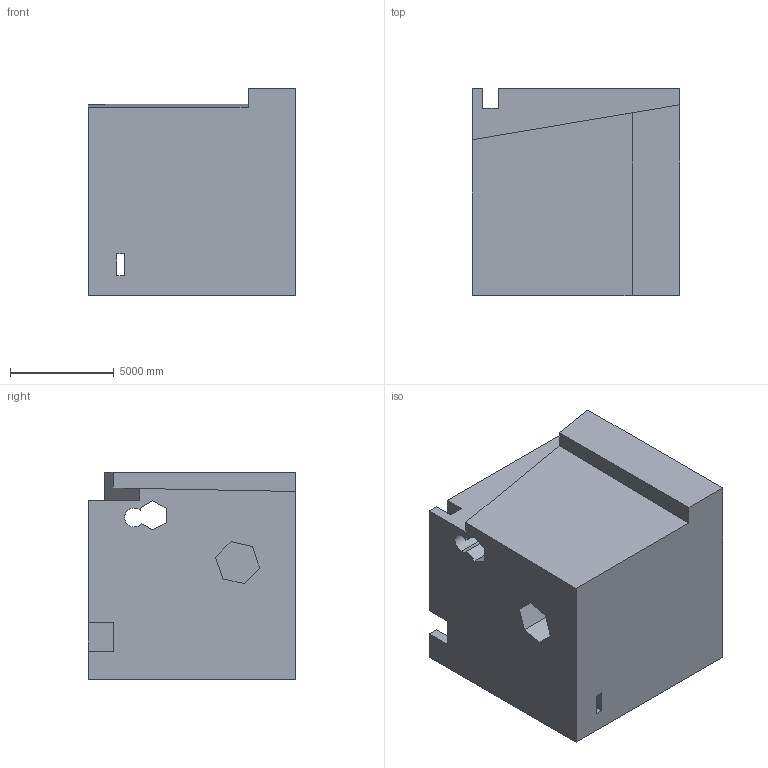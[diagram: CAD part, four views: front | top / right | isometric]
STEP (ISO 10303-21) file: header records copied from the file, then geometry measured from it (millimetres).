
FILE_DESCRIPTION (( 'STEP AP203' ), '1' );
FILE_NAME ('84.STEP', '2022-09-01T12:02:53', ( 'user' ), ( '' ), 'SwSTEP 2.0', 'SolidWorks 2021', '' );
FILE_SCHEMA (( 'CONFIG_CONTROL_DESIGN' ));
Length unit declared in the file: centimetre
Products named in the file (1): 84
Bounding box: 10000 x 10000 x 10000 mm (x, y, z)
Volume: 871747584462.9 mm3; surface area: 727619875.3 mm2
Topology: 1 solids, 1 shells, 47 faces, 132 edges, 88 vertices
Faces by surface type: plane 44, cylinder 3
Entity records: 1577 total; most frequent: CARTESIAN_POINT 268, ORIENTED_EDGE 264, DIRECTION 234, EDGE_CURVE 132, VECTOR 126, LINE 126, VERTEX_POINT 88, AXIS2_PLACEMENT_3D 54
